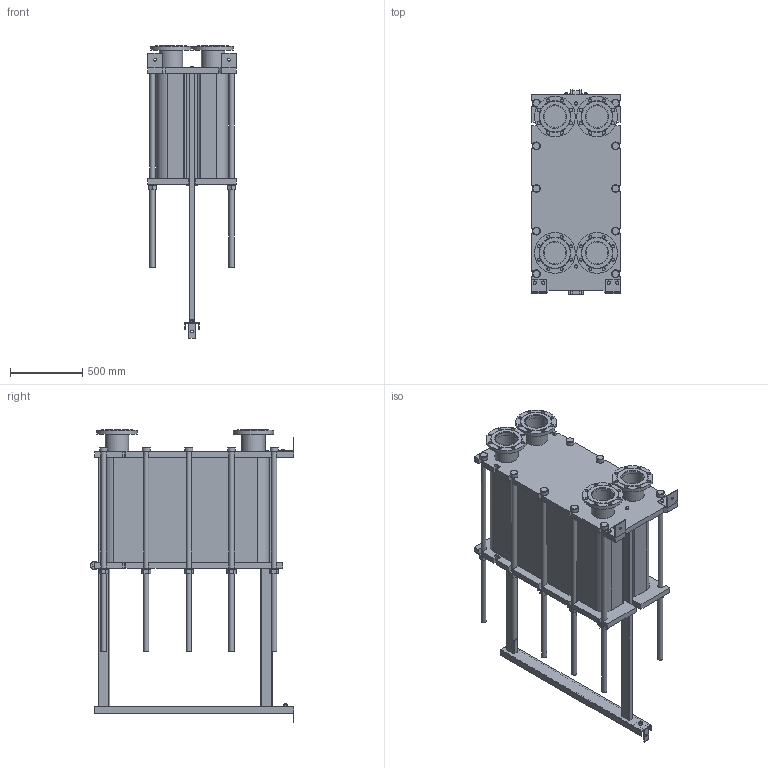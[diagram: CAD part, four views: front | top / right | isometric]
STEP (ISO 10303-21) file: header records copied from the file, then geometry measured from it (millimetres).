
FILE_DESCRIPTION(/* description */ (''),/* implementation_level */ '2;1');
FILE_NAME(/* name */ 'C:\Users\zhuro\Desktop\ENCO\TO\ЭН-041\ЭН-0,5-041-210-1.stp',/* time_stamp */ '2022-06-06T11:06:51+03:00',/* author */ ('zhuro'),/* organization */ (''),/* preprocessor_version */ 'ST-DEVELOPER v18.1',/* originating_system */ 'Autodesk Inventor 2022',/* authorisation */ '');
FILE_SCHEMA (('AUTOMOTIVE_DESIGN { 1 0 10303 214 3 1 1 }'));
Length unit declared in the file: millimetre
Products named in the file (1): ЭН-0,5-041-210-1
Bounding box: 610 x 1406.5 x 2015 mm (x, y, z)
Volume: 495688941.8 mm3; surface area: 11449920.9 mm2
Topology: 52 solids, 52 shells, 711 faces, 1696 edges, 1094 vertices
Faces by surface type: plane 487, cylinder 177, cone 41, torus 6
Full cylindrical faces by diameter (mm): 8 x4, 10 x2, 16 x8, 18 x3, 22 x32, 36 x24, 50 x1, 54 x10, 60 x12, 151 x4, 161 x8, 280 x4
Entity records: 22667 total; most frequent: CARTESIAN_POINT 5230, DIRECTION 3644, ORIENTED_EDGE 3392, EDGE_CURVE 1696, AXIS2_PLACEMENT_3D 1272, LINE 1100, VECTOR 1100, VERTEX_POINT 1094
